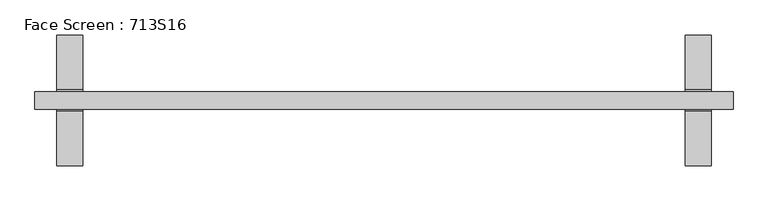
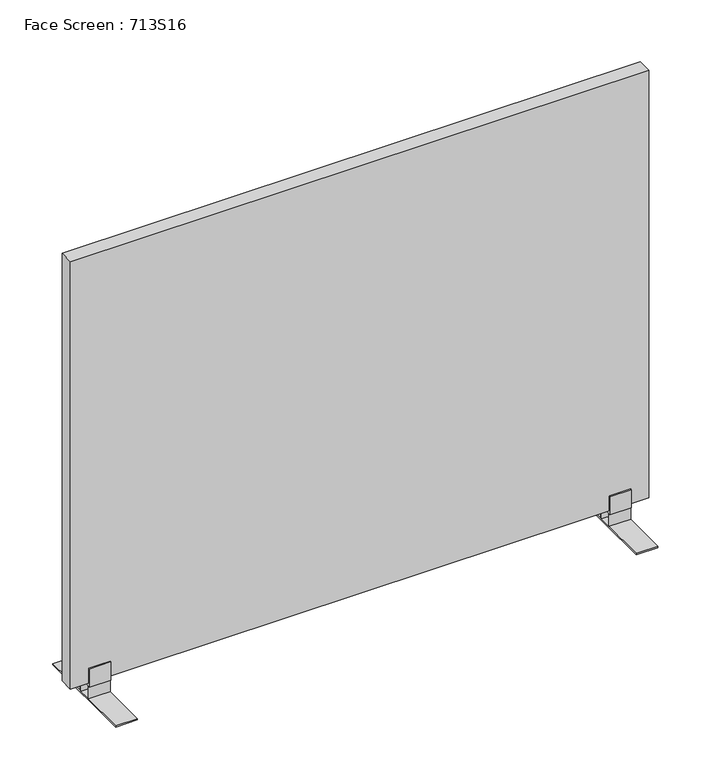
"""IFC4 building model written with IfcOpenShell, lengths in millimetres: furniture geometry, Face Screen : 713S16."""

from ifc_helpers import new_model, si_unit, frame, origin, place, context, project, spatial, polyline, outline, extrude, source, transform, mapped, element, save


def face_screen_713s16_f4952262(model_context):
    return source(origin(), model_context, "Body", "SweptSolid", [
        extrude(outline(polyline([(-20.0, 4.0), (-20.0, 40.0), (-24.0, 40.0), (-24.0000047, 93.0166638), (-20.0, 93.0166638), (-20.0, 50.0955899), (20.0, 50.0955899), (20.0, 93.0166638), (24.0, 93.0166638), (23.9999953, 40.0), (20.0, 40.0), (20.0, 4.0), (149.9935713, 4.0), (149.9935713, 0.0), (-150.0064287, 0.0), (-150.0064287, 4.0), (-20.0, 4.0)]), holes=[polyline([(16.0, 40.0), (-16.0, 40.0), (-16.0, 4.0), (16.0, 4.0), (16.0, 40.0)])]), frame((690.0, 0.0, 0.0), z_axis=(1.0, 0.0, 0.0), x_axis=(0.0, 1.0, 0.0)), (0.0, 0.0, 1.0), 60.0),
        extrude(outline(polyline([(20.0, 4.0), (150.0064287, 4.0), (150.0064287, 0.0), (-149.9935713, 0.0), (-149.9935713, 4.0), (-20.0, 4.0), (-20.0, 40.0), (-23.9999953, 40.0), (-24.0, 93.0166638), (-20.0, 93.0166638), (-20.0, 50.0955899), (20.0, 50.0955899), (20.0, 93.0166638), (24.0000047, 93.0166638), (24.0, 40.0), (20.0, 40.0), (20.0, 4.0)]), holes=[polyline([(-16.0, 40.0), (-16.0, 4.0), (16.0, 4.0), (16.0, 40.0), (-16.0, 40.0)])]), frame((-750.0, 0.0, 0.0), z_axis=(1.0, 0.0, 0.0), x_axis=(0.0, 1.0, 0.0)), (0.0, 0.0, 1.0), 60.0),
        extrude(outline(polyline([(800.0, 20.0), (800.0, -20.0), (-800.0, -20.0), (-800.0, 20.0), (800.0, 20.0)])), frame((0.0, 0.0, 50.0), z_axis=(0.0, 0.0, 1.0), x_axis=(1.0, 0.0, 0.0)), (0.0, 0.0, 1.0), 1250.0),
    ])


if __name__ == "__main__":
    model = new_model("IFC4")
    model_context = context("Model", 3, world=origin())
    ifc_project = project(units=[si_unit("LENGTHUNIT", "METRE", prefix="MILLI")], contexts=[model_context])
    site = spatial("IfcSite", under=ifc_project)
    building = spatial("IfcBuilding", under=site)
    placement = place(None, origin())
    face_screen_713s16_shape = face_screen_713s16_f4952262(model_context)
    element("IfcFurniture", 1, ObjectType="Face Screen : 713S16", at=placement, inside=building, context=model_context, shape_type="MappedRepresentation", body=[
        mapped(face_screen_713s16_shape, transform((0.0, 0.0, 0.0), x_axis=(1.0, 0.0, 0.0), y_axis=(0.0, 1.0, 0.0), z_axis=(0.0, 0.0, 1.0))),
    ])
    save(model, "model.ifc")
